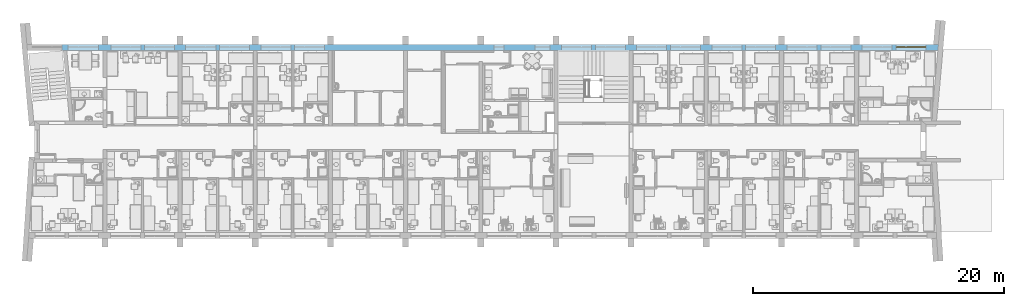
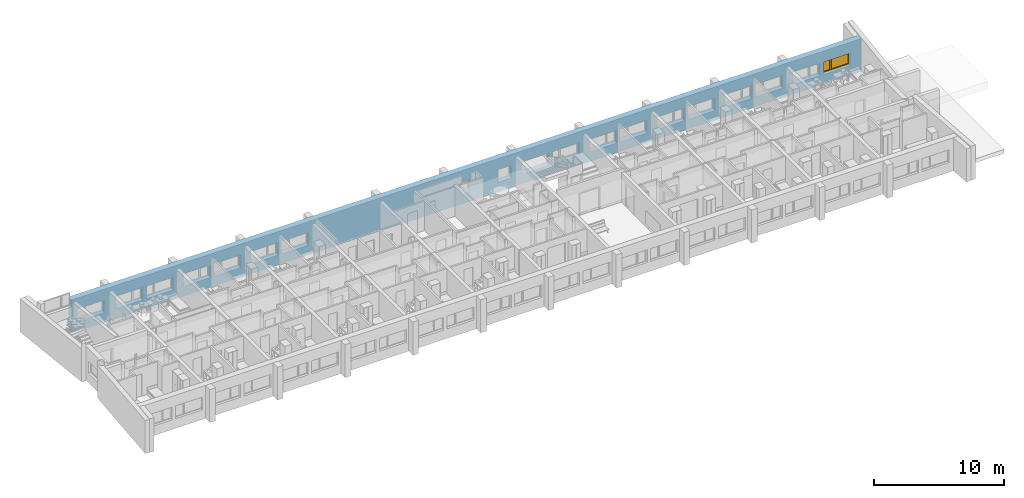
# One storey, part 31 of 172: 1 window, 19 openings, plus 1 element that does not belong to this part.
"""IFC2X3 building model written with IfcOpenShell, lengths in millimetres."""

from ifc_helpers import new_model, entity, si_unit, converted_unit, money_unit, direction, frame, origin_with_axes, place, context, subcontext, project, spatial, polyline, outline, extrude, open_shell, faceted_brep, surface_model, source, transform, mapped, material, material_list, layer, layer_set, layer_usage, type_object, element, fill, save


model = new_model("IFC2X3")

# Units and contexts
model_context = context("Model", 3, precision=1e-05, world=origin_with_axes(), true_north=direction((0.0, 1.0)))
body_context = subcontext(model_context, "Body", "Model", "MODEL_VIEW")
ifc_project = project(units=[si_unit("LENGTHUNIT", "METRE", prefix="MILLI"), si_unit("AREAUNIT", "SQUARE_METRE"), si_unit("VOLUMEUNIT", "CUBIC_METRE"), converted_unit("PLANEANGLEUNIT", "DEGREE", entity("IfcPlaneAngleMeasure", 0.0174532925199), si_unit("PLANEANGLEUNIT", "RADIAN"), dimensions=[0, 0, 0, 0, 0, 0, 0]), si_unit("SOLIDANGLEUNIT", "STERADIAN"), money_unit("USD"), converted_unit("TIMEUNIT", "Year", entity("IfcTimeMeasure", 31556926.0), si_unit("TIMEUNIT", "SECOND"), dimensions=[0, 0, 0, 0, 0, 0, 0]), si_unit("MASSUNIT", "GRAM"), si_unit("THERMODYNAMICTEMPERATUREUNIT", "DEGREE_CELSIUS"), si_unit("LUMINOUSINTENSITYUNIT", "LUMEN")], contexts=[model_context])

# Site, building, storey
site_placement = place(None, origin_with_axes())
site = spatial("IfcSite", under=ifc_project, at=site_placement, Name="Site", CompositionType="ELEMENT")
building_placement = place(site_placement, origin_with_axes())
building = spatial("IfcBuilding", under=site, at=building_placement, Name="Building", CompositionType="ELEMENT")
storey_placement = place(building_placement, frame((0.0, 0.0, 3200.0), z_axis=(0.0, 0.0, 1.0), x_axis=(1.0, 0.0, 0.0)))
storey = spatial("IfcBuildingStorey", under=building, at=storey_placement, Name="3KORRUS", CompositionType="ELEMENT", Elevation=3200.0)

# Wall, openings, window
ifc_material_1 = material(Name="Olemasolevad seinad tellis, uus viimistlus")
ifc_layer = layer(ifc_material_1, 500.0, ventilated="UNKNOWN")
ifc_layer_set = layer_set([ifc_layer], Name="Olemasolevad seinad tellis, uus viimistlus 500")
ifc_layer_usage = layer_usage(ifc_layer_set, "AXIS2", "POSITIVE", -100.0)
wall_type = type_object("IfcWallType", Name="Olemasolevad seinad tellis, uus viimistlus 500", PredefinedType="NOTDEFINED")
wall_placement = place(storey_placement, frame((-51569.3388124, -5039.6041088, 0.0), z_axis=(0.0, 0.0, 1.0), x_axis=(1.0, 0.0, 0.0)))
wall = element("IfcWallStandardCase", 1, at=wall_placement, inside=storey, type_object=wall_type, material=ifc_layer_usage, Name="VS1", ObjectType="VS1", context=body_context, shape_type="SweptSolid", body=[
    extrude(outline(polyline([(0.0, -100.0), (69914.7195482, -100.0), (69959.6995146, 400.0), (0.0, 400.0), (0.0, -100.0)])), origin_with_axes(), (0.0, 0.0, 1.0), 3100.0),
])
opening_1_placement = place(wall_placement, frame((34879.0421091, 0.0, 900.0), z_axis=(0.0, 0.0, 1.0), x_axis=(1.0, 0.0, 0.0)))
element("IfcOpeningElement", 2, at=opening_1_placement, cuts=wall, Name="WD - 001", context=body_context, shape_type="SweptSolid", body=[
    extrude(outline(polyline([(-400.0, 1200.0), (-400.0, 0.0), (400.0, 0.0), (400.0, 1200.0), (-400.0, 1200.0)])), frame((0.0, 200.0, 0.0), z_axis=(0.0, -1.0, 0.0), x_axis=(1.0, 0.0, 0.0)), (0.0, 0.0, 1.0), 800.0),
    extrude(outline(polyline([(-400.0, 0.0), (-400.0, -1200.0), (400.0, -1200.0), (400.0, 0.0), (-400.0, 0.0)])), frame((0.0, 200.0, 0.0), z_axis=(0.0, 1.0, 0.0), x_axis=(1.0, 0.0, 0.0)), (0.0, 0.0, 1.0), 700.0),
])
opening_2_placement = place(wall_placement, frame((38352.6323068, 0.0, 900.0), z_axis=(0.0, 0.0, 1.0), x_axis=(1.0, 0.0, 0.0)))
element("IfcOpeningElement", 3, at=opening_2_placement, cuts=wall, Name="A3", context=body_context, shape_type="SweptSolid", body=[
    extrude(outline(polyline([(-600.0, 1200.0), (-600.0, 0.0), (600.0, 0.0), (600.0, 1200.0), (-600.0, 1200.0)])), frame((0.0, 200.0, 0.0), z_axis=(0.0, -1.0, 0.0), x_axis=(1.0, 0.0, 0.0)), (0.0, 0.0, 1.0), 800.0),
    extrude(outline(polyline([(-600.0, 0.0), (-600.0, -1200.0), (600.0, -1200.0), (600.0, 0.0), (-600.0, 0.0)])), frame((0.0, 200.0, 0.0), z_axis=(0.0, 1.0, 0.0), x_axis=(1.0, 0.0, 0.0)), (0.0, 0.0, 1.0), 700.0),
])
opening_3_placement = place(wall_placement, frame((1700.0, 0.0, 900.0), z_axis=(0.0, 0.0, 1.0), x_axis=(1.0, 0.0, 0.0)))
element("IfcOpeningElement", 4, at=opening_3_placement, cuts=wall, Name="A1", context=body_context, shape_type="SweptSolid", body=[
    extrude(outline(polyline([(1200.0, 1200.0), (-1200.0, 1200.0), (-1200.0, 0.0), (1200.0, 0.0), (1200.0, 1200.0)])), frame((0.0, 200.0, 0.0), z_axis=(0.0, -1.0, 0.0), x_axis=(1.0, 0.0, 0.0)), (0.0, 0.0, 1.0), 800.0),
    extrude(outline(polyline([(1200.0, 0.0), (-1200.0, 0.0), (-1200.0, -1200.0), (1200.0, -1200.0), (1200.0, 0.0)])), frame((0.0, 200.0, 0.0), z_axis=(0.0, 1.0, 0.0), x_axis=(1.0, 0.0, 0.0)), (0.0, 0.0, 1.0), 700.0),
])
opening_4_placement = place(wall_placement, frame((7795.91085613, 0.0, 900.0), z_axis=(0.0, 0.0, 1.0), x_axis=(1.0, 0.0, 0.0)))
element("IfcOpeningElement", 5, at=opening_4_placement, cuts=wall, Name="A1", context=body_context, shape_type="SweptSolid", body=[
    extrude(outline(polyline([(1200.0, 1200.0), (-1200.0, 1200.0), (-1200.0, 0.0), (1200.0, 0.0), (1200.0, 1200.0)])), frame((0.0, 200.0, 0.0), z_axis=(0.0, -1.0, 0.0), x_axis=(1.0, 0.0, 0.0)), (0.0, 0.0, 1.0), 800.0),
    extrude(outline(polyline([(1200.0, 0.0), (-1200.0, 0.0), (-1200.0, -1200.0), (1200.0, -1200.0), (1200.0, 0.0)])), frame((0.0, 200.0, 0.0), z_axis=(0.0, 1.0, 0.0), x_axis=(1.0, 0.0, 0.0)), (0.0, 0.0, 1.0), 700.0),
])
opening_5_placement = place(wall_placement, frame((5095.91085613, 0.0, 900.0), z_axis=(0.0, 0.0, 1.0), x_axis=(1.0, 0.0, 0.0)))
element("IfcOpeningElement", 6, at=opening_5_placement, cuts=wall, Name="A2", context=body_context, shape_type="SweptSolid", body=[
    extrude(outline(polyline([(-1200.0, 1200.0), (-1200.0, 0.0), (1200.0, 0.0), (1200.0, 1200.0), (-1200.0, 1200.0)])), frame((0.0, 200.0, 0.0), z_axis=(0.0, -1.0, 0.0), x_axis=(1.0, 0.0, 0.0)), (0.0, 0.0, 1.0), 800.0),
    extrude(outline(polyline([(-1200.0, 0.0), (-1200.0, -1200.0), (1200.0, -1200.0), (1200.0, 0.0), (-1200.0, 0.0)])), frame((0.0, 200.0, 0.0), z_axis=(0.0, 1.0, 0.0), x_axis=(1.0, 0.0, 0.0)), (0.0, 0.0, 1.0), 700.0),
])
opening_6_placement = place(wall_placement, frame((13779.0421091, 0.0, 900.0), z_axis=(0.0, 0.0, 1.0), x_axis=(1.0, 0.0, 0.0)))
element("IfcOpeningElement", 7, at=opening_6_placement, cuts=wall, Name="A1", context=body_context, shape_type="SweptSolid", body=[
    extrude(outline(polyline([(1200.0, 1200.0), (-1200.0, 1200.0), (-1200.0, 0.0), (1200.0, 0.0), (1200.0, 1200.0)])), frame((0.0, 200.0, 0.0), z_axis=(0.0, -1.0, 0.0), x_axis=(1.0, 0.0, 0.0)), (0.0, 0.0, 1.0), 800.0),
    extrude(outline(polyline([(1200.0, 0.0), (-1200.0, 0.0), (-1200.0, -1200.0), (1200.0, -1200.0), (1200.0, 0.0)])), frame((0.0, 200.0, 0.0), z_axis=(0.0, 1.0, 0.0), x_axis=(1.0, 0.0, 0.0)), (0.0, 0.0, 1.0), 700.0),
])
opening_7_placement = place(wall_placement, frame((11079.0421091, 0.0, 900.0), z_axis=(0.0, 0.0, 1.0), x_axis=(1.0, 0.0, 0.0)))
element("IfcOpeningElement", 8, at=opening_7_placement, cuts=wall, Name="A2", context=body_context, shape_type="SweptSolid", body=[
    extrude(outline(polyline([(-1200.0, 1200.0), (-1200.0, 0.0), (1200.0, 0.0), (1200.0, 1200.0), (-1200.0, 1200.0)])), frame((0.0, 200.0, 0.0), z_axis=(0.0, -1.0, 0.0), x_axis=(1.0, 0.0, 0.0)), (0.0, 0.0, 1.0), 800.0),
    extrude(outline(polyline([(-1200.0, 0.0), (-1200.0, -1200.0), (1200.0, -1200.0), (1200.0, 0.0), (-1200.0, 0.0)])), frame((0.0, 200.0, 0.0), z_axis=(0.0, 1.0, 0.0), x_axis=(1.0, 0.0, 0.0)), (0.0, 0.0, 1.0), 700.0),
])
opening_8_placement = place(wall_placement, frame((43769.0421091, 0.0, 900.0), z_axis=(0.0, 0.0, 1.0), x_axis=(1.0, 0.0, 0.0)))
element("IfcOpeningElement", 9, at=opening_8_placement, cuts=wall, Name="A1", context=body_context, shape_type="SweptSolid", body=[
    extrude(outline(polyline([(1200.0, 1200.0), (-1200.0, 1200.0), (-1200.0, 0.0), (1200.0, 0.0), (1200.0, 1200.0)])), frame((0.0, 200.0, 0.0), z_axis=(0.0, -1.0, 0.0), x_axis=(1.0, 0.0, 0.0)), (0.0, 0.0, 1.0), 800.0),
    extrude(outline(polyline([(1200.0, 0.0), (-1200.0, 0.0), (-1200.0, -1200.0), (1200.0, -1200.0), (1200.0, 0.0)])), frame((0.0, 200.0, 0.0), z_axis=(0.0, 1.0, 0.0), x_axis=(1.0, 0.0, 0.0)), (0.0, 0.0, 1.0), 700.0),
])
opening_9_placement = place(wall_placement, frame((41069.0421091, 0.0, 900.0), z_axis=(0.0, 0.0, 1.0), x_axis=(1.0, 0.0, 0.0)))
element("IfcOpeningElement", 10, at=opening_9_placement, cuts=wall, Name="A2", context=body_context, shape_type="SweptSolid", body=[
    extrude(outline(polyline([(-1200.0, 1200.0), (-1200.0, 0.0), (1200.0, 0.0), (1200.0, 1200.0), (-1200.0, 1200.0)])), frame((0.0, 200.0, 0.0), z_axis=(0.0, -1.0, 0.0), x_axis=(1.0, 0.0, 0.0)), (0.0, 0.0, 1.0), 800.0),
    extrude(outline(polyline([(-1200.0, 0.0), (-1200.0, -1200.0), (1200.0, -1200.0), (1200.0, 0.0), (-1200.0, 0.0)])), frame((0.0, 200.0, 0.0), z_axis=(0.0, 1.0, 0.0), x_axis=(1.0, 0.0, 0.0)), (0.0, 0.0, 1.0), 700.0),
])
opening_10_placement = place(wall_placement, frame((49769.0421091, 0.0, 900.0), z_axis=(0.0, 0.0, 1.0), x_axis=(1.0, 0.0, 0.0)))
element("IfcOpeningElement", 11, at=opening_10_placement, cuts=wall, Name="A1", context=body_context, shape_type="SweptSolid", body=[
    extrude(outline(polyline([(1200.0, 1200.0), (-1200.0, 1200.0), (-1200.0, 0.0), (1200.0, 0.0), (1200.0, 1200.0)])), frame((0.0, 200.0, 0.0), z_axis=(0.0, -1.0, 0.0), x_axis=(1.0, 0.0, 0.0)), (0.0, 0.0, 1.0), 800.0),
    extrude(outline(polyline([(1200.0, 0.0), (-1200.0, 0.0), (-1200.0, -1200.0), (1200.0, -1200.0), (1200.0, 0.0)])), frame((0.0, 200.0, 0.0), z_axis=(0.0, 1.0, 0.0), x_axis=(1.0, 0.0, 0.0)), (0.0, 0.0, 1.0), 700.0),
])
opening_11_placement = place(wall_placement, frame((47069.0421091, 0.0, 900.0), z_axis=(0.0, 0.0, 1.0), x_axis=(1.0, 0.0, 0.0)))
element("IfcOpeningElement", 12, at=opening_11_placement, cuts=wall, Name="A2", context=body_context, shape_type="SweptSolid", body=[
    extrude(outline(polyline([(-1200.0, 1200.0), (-1200.0, 0.0), (1200.0, 0.0), (1200.0, 1200.0), (-1200.0, 1200.0)])), frame((0.0, 200.0, 0.0), z_axis=(0.0, -1.0, 0.0), x_axis=(1.0, 0.0, 0.0)), (0.0, 0.0, 1.0), 800.0),
    extrude(outline(polyline([(-1200.0, 0.0), (-1200.0, -1200.0), (1200.0, -1200.0), (1200.0, 0.0), (-1200.0, 0.0)])), frame((0.0, 200.0, 0.0), z_axis=(0.0, 1.0, 0.0), x_axis=(1.0, 0.0, 0.0)), (0.0, 0.0, 1.0), 700.0),
])
opening_12_placement = place(wall_placement, frame((55769.0421091, 0.0, 900.0), z_axis=(0.0, 0.0, 1.0), x_axis=(1.0, 0.0, 0.0)))
element("IfcOpeningElement", 13, at=opening_12_placement, cuts=wall, Name="A1", context=body_context, shape_type="SweptSolid", body=[
    extrude(outline(polyline([(1200.0, 1200.0), (-1200.0, 1200.0), (-1200.0, 0.0), (1200.0, 0.0), (1200.0, 1200.0)])), frame((0.0, 200.0, 0.0), z_axis=(0.0, -1.0, 0.0), x_axis=(1.0, 0.0, 0.0)), (0.0, 0.0, 1.0), 800.0),
    extrude(outline(polyline([(1200.0, 0.0), (-1200.0, 0.0), (-1200.0, -1200.0), (1200.0, -1200.0), (1200.0, 0.0)])), frame((0.0, 200.0, 0.0), z_axis=(0.0, 1.0, 0.0), x_axis=(1.0, 0.0, 0.0)), (0.0, 0.0, 1.0), 700.0),
])
opening_13_placement = place(wall_placement, frame((53069.0421091, 0.0, 900.0), z_axis=(0.0, 0.0, 1.0), x_axis=(1.0, 0.0, 0.0)))
element("IfcOpeningElement", 14, at=opening_13_placement, cuts=wall, Name="A2", context=body_context, shape_type="SweptSolid", body=[
    extrude(outline(polyline([(-1200.0, 1200.0), (-1200.0, 0.0), (1200.0, 0.0), (1200.0, 1200.0), (-1200.0, 1200.0)])), frame((0.0, 200.0, 0.0), z_axis=(0.0, -1.0, 0.0), x_axis=(1.0, 0.0, 0.0)), (0.0, 0.0, 1.0), 800.0),
    extrude(outline(polyline([(-1200.0, 0.0), (-1200.0, -1200.0), (1200.0, -1200.0), (1200.0, 0.0), (-1200.0, 0.0)])), frame((0.0, 200.0, 0.0), z_axis=(0.0, 1.0, 0.0), x_axis=(1.0, 0.0, 0.0)), (0.0, 0.0, 1.0), 700.0),
])
opening_14_placement = place(wall_placement, frame((61769.0421091, 0.0, 900.0), z_axis=(0.0, 0.0, 1.0), x_axis=(1.0, 0.0, 0.0)))
element("IfcOpeningElement", 15, at=opening_14_placement, cuts=wall, Name="A1", context=body_context, shape_type="SweptSolid", body=[
    extrude(outline(polyline([(1200.0, 1200.0), (-1200.0, 1200.0), (-1200.0, 0.0), (1200.0, 0.0), (1200.0, 1200.0)])), frame((0.0, 200.0, 0.0), z_axis=(0.0, -1.0, 0.0), x_axis=(1.0, 0.0, 0.0)), (0.0, 0.0, 1.0), 800.0),
    extrude(outline(polyline([(1200.0, 0.0), (-1200.0, 0.0), (-1200.0, -1200.0), (1200.0, -1200.0), (1200.0, 0.0)])), frame((0.0, 200.0, 0.0), z_axis=(0.0, 1.0, 0.0), x_axis=(1.0, 0.0, 0.0)), (0.0, 0.0, 1.0), 700.0),
])
opening_15_placement = place(wall_placement, frame((59069.0421091, 0.0, 900.0), z_axis=(0.0, 0.0, 1.0), x_axis=(1.0, 0.0, 0.0)))
element("IfcOpeningElement", 16, at=opening_15_placement, cuts=wall, Name="A2", context=body_context, shape_type="SweptSolid", body=[
    extrude(outline(polyline([(-1200.0, 1200.0), (-1200.0, 0.0), (1200.0, 0.0), (1200.0, 1200.0), (-1200.0, 1200.0)])), frame((0.0, 200.0, 0.0), z_axis=(0.0, -1.0, 0.0), x_axis=(1.0, 0.0, 0.0)), (0.0, 0.0, 1.0), 800.0),
    extrude(outline(polyline([(-1200.0, 0.0), (-1200.0, -1200.0), (1200.0, -1200.0), (1200.0, 0.0), (-1200.0, 0.0)])), frame((0.0, 200.0, 0.0), z_axis=(0.0, 1.0, 0.0), x_axis=(1.0, 0.0, 0.0)), (0.0, 0.0, 1.0), 700.0),
])
opening_16_placement = place(wall_placement, frame((67773.3244043, 0.0, 900.0), z_axis=(0.0, 0.0, 1.0), x_axis=(1.0, 0.0, 0.0)))
opening_16 = element("IfcOpeningElement", 17, at=opening_16_placement, cuts=wall, Name="A1", context=body_context, shape_type="SweptSolid", body=[
    extrude(outline(polyline([(1200.0, 1200.0), (-1200.0, 1200.0), (-1200.0, 0.0), (1200.0, 0.0), (1200.0, 1200.0)])), frame((0.0, 200.0, 0.0), z_axis=(0.0, -1.0, 0.0), x_axis=(1.0, 0.0, 0.0)), (0.0, 0.0, 1.0), 800.0),
    extrude(outline(polyline([(1200.0, 0.0), (-1200.0, 0.0), (-1200.0, -1200.0), (1200.0, -1200.0), (1200.0, 0.0)])), frame((0.0, 200.0, 0.0), z_axis=(0.0, 1.0, 0.0), x_axis=(1.0, 0.0, 0.0)), (0.0, 0.0, 1.0), 700.0),
])
opening_17_placement = place(wall_placement, frame((65073.3244043, 0.0, 900.0), z_axis=(0.0, 0.0, 1.0), x_axis=(1.0, 0.0, 0.0)))
element("IfcOpeningElement", 18, at=opening_17_placement, cuts=wall, Name="A2", context=body_context, shape_type="SweptSolid", body=[
    extrude(outline(polyline([(-1200.0, 1200.0), (-1200.0, 0.0), (1200.0, 0.0), (1200.0, 1200.0), (-1200.0, 1200.0)])), frame((0.0, 200.0, 0.0), z_axis=(0.0, -1.0, 0.0), x_axis=(1.0, 0.0, 0.0)), (0.0, 0.0, 1.0), 800.0),
    extrude(outline(polyline([(-1200.0, 0.0), (-1200.0, -1200.0), (1200.0, -1200.0), (1200.0, 0.0), (-1200.0, 0.0)])), frame((0.0, 200.0, 0.0), z_axis=(0.0, 1.0, 0.0), x_axis=(1.0, 0.0, 0.0)), (0.0, 0.0, 1.0), 700.0),
])
opening_18_placement = place(wall_placement, frame((19767.4765851, 0.0, 900.0), z_axis=(0.0, 0.0, 1.0), x_axis=(1.0, 0.0, 0.0)))
element("IfcOpeningElement", 19, at=opening_18_placement, cuts=wall, Name="A1", context=body_context, shape_type="SweptSolid", body=[
    extrude(outline(polyline([(1200.0, 1200.0), (-1200.0, 1200.0), (-1200.0, 0.0), (1200.0, 0.0), (1200.0, 1200.0)])), frame((0.0, 200.0, 0.0), z_axis=(0.0, -1.0, 0.0), x_axis=(1.0, 0.0, 0.0)), (0.0, 0.0, 1.0), 800.0),
    extrude(outline(polyline([(1200.0, 0.0), (-1200.0, 0.0), (-1200.0, -1200.0), (1200.0, -1200.0), (1200.0, 0.0)])), frame((0.0, 200.0, 0.0), z_axis=(0.0, 1.0, 0.0), x_axis=(1.0, 0.0, 0.0)), (0.0, 0.0, 1.0), 700.0),
])
opening_19_placement = place(wall_placement, frame((17067.4765851, 0.0, 900.0), z_axis=(0.0, 0.0, 1.0), x_axis=(1.0, 0.0, 0.0)))
element("IfcOpeningElement", 20, at=opening_19_placement, cuts=wall, Name="A2", context=body_context, shape_type="SweptSolid", body=[
    extrude(outline(polyline([(-1200.0, 1200.0), (-1200.0, 0.0), (1200.0, 0.0), (1200.0, 1200.0), (-1200.0, 1200.0)])), frame((0.0, 200.0, 0.0), z_axis=(0.0, -1.0, 0.0), x_axis=(1.0, 0.0, 0.0)), (0.0, 0.0, 1.0), 800.0),
    extrude(outline(polyline([(-1200.0, 0.0), (-1200.0, -1200.0), (1200.0, -1200.0), (1200.0, 0.0), (-1200.0, 0.0)])), frame((0.0, 200.0, 0.0), z_axis=(0.0, 1.0, 0.0), x_axis=(1.0, 0.0, 0.0)), (0.0, 0.0, 1.0), 700.0),
])
ifc_material_2 = material(Name="Background")
ifc_material_list = material_list([ifc_material_2])
window_style = type_object("IfcWindowStyle", Name="Double Window 19", ConstructionType="NOTDEFINED", OperationType="DOUBLE_PANEL_VERTICAL", ParameterTakesPrecedence=False, Sizeable=False)
shared_shape = source(origin_with_axes(), body_context, "Body", "SurfaceModel", [
    faceted_brep([(1175.0, -200.0, 1150.0), (1175.0, -225.0, 1150.0), (1150.0, -225.0, 1150.0), (1150.0, -250.0, 1150.0), (1200.0, -250.0, 1150.0), (1200.0, -200.0, 1150.0), (1175.0, -200.0, 50.0), (1175.0, -225.0, 50.0), (1150.0, -225.0, 50.0), (1150.0, -250.0, 50.0), (1200.0, -250.0, 50.0), (1200.0, -200.0, 50.0)], [[[0, 1, 2, 3, 4, 5]], [[1, 0, 6, 7]], [[8, 2, 1, 7]], [[2, 8, 9, 3]], [[4, 3, 9, 10]], [[5, 4, 10, 11]], [[6, 0, 5, 11]], [[7, 6, 11, 10, 9, 8]]]),
    faceted_brep([(-1150.0, -225.0, 1150.0), (-1175.0, -225.0, 1150.0), (-1175.0, -200.0, 1150.0), (-1200.0, -200.0, 1150.0), (-1200.0, -250.0, 1150.0), (-1150.0, -250.0, 1150.0), (-1150.0, -225.0, 50.0), (-1175.0, -225.0, 50.0), (-1175.0, -200.0, 50.0), (-1200.0, -200.0, 50.0), (-1200.0, -250.0, 50.0), (-1150.0, -250.0, 50.0)], [[[0, 1, 2, 3, 4, 5]], [[1, 0, 6, 7]], [[8, 2, 1, 7]], [[2, 8, 9, 3]], [[9, 10, 4, 3]], [[10, 11, 5, 4]], [[6, 0, 5, 11]], [[7, 6, 11, 10, 9, 8]]]),
    faceted_brep([(-350.0, -225.0, 1150.0), (-375.0, -225.0, 1150.0), (-375.0, -200.0, 1150.0), (-425.0, -200.0, 1150.0), (-425.0, -225.0, 1150.0), (-450.0, -225.0, 1150.0), (-450.0, -250.0, 1150.0), (-350.0, -250.0, 1150.0), (-350.0, -225.0, 50.0), (-375.0, -225.0, 50.0), (-375.0, -200.0, 50.0), (-425.0, -200.0, 50.0), (-425.0, -225.0, 50.0), (-450.0, -225.0, 50.0), (-450.0, -250.0, 50.0), (-350.0, -250.0, 50.0)], [[[0, 1, 2, 3, 4, 5, 6, 7]], [[1, 0, 8, 9]], [[10, 2, 1, 9]], [[2, 10, 11, 3]], [[4, 3, 11, 12]], [[13, 5, 4, 12]], [[5, 13, 14, 6]], [[14, 15, 7, 6]], [[8, 0, 7, 15]], [[9, 8, 15, 14, 13, 12, 11, 10]]]),
    faceted_brep([(-350.0, -225.0, 50.0), (-375.0, -225.0, 50.0), (-375.0, -200.0, 50.0), (-425.0, -200.0, 50.0), (-425.0, -225.0, 50.0), (-450.0, -225.0, 50.0), (-450.0, -250.0, 50.0), (-350.0, -250.0, 50.0), (1150.0, -225.0, 50.0), (1175.0, -225.0, 50.0), (1175.0, -225.0, 25.0), (-375.0, -225.0, 25.0), (-375.0, -200.0, 25.0), (1175.0, -200.0, 25.0), (1175.0, -200.0, 50.0), (1200.0, -200.0, 50.0), (1200.0, -200.0, 0.0), (-1200.0, -200.0, 0.0), (-1200.0, -200.0, 50.0), (-1175.0, -200.0, 50.0), (-1175.0, -200.0, 25.0), (-425.0, -200.0, 25.0), (-425.0, -225.0, 25.0), (-1175.0, -225.0, 50.0), (-1150.0, -225.0, 50.0), (-1175.0, -225.0, 25.0), (-1150.0, -250.0, 50.0), (1200.0, -250.0, 50.0), (1150.0, -250.0, 50.0), (-1200.0, -250.0, 50.0), (-1200.0, -250.0, 0.0), (1200.0, -250.0, 0.0)], [[[0, 1, 2, 3, 4, 5, 6, 7]], [[1, 0, 8, 9, 10, 11]], [[12, 2, 1, 11]], [[13, 14, 15, 16, 17, 18, 19, 20, 21, 3, 2, 12]], [[4, 3, 21, 22]], [[23, 24, 5, 4, 22, 25]], [[5, 24, 26, 6]], [[27, 28, 7, 6, 26, 29, 30, 31]], [[8, 0, 7, 28]], [[9, 8, 28, 27, 15, 14]], [[9, 14, 13, 10]], [[13, 12, 11, 10]], [[15, 27, 31, 16]], [[16, 31, 30, 17]], [[17, 30, 29, 18]], [[24, 23, 19, 18, 29, 26]], [[20, 19, 23, 25]], [[21, 20, 25, 22]]]),
    faceted_brep([(1175.0, -200.0, 1150.0), (1175.0, -200.0, 1175.0), (-375.0, -200.0, 1175.0), (-375.0, -200.0, 1150.0), (-425.0, -200.0, 1150.0), (-425.0, -200.0, 1175.0), (-1175.0, -200.0, 1175.0), (-1175.0, -200.0, 1150.0), (-1200.0, -200.0, 1150.0), (-1200.0, -200.0, 1200.0), (1200.0, -200.0, 1200.0), (1200.0, -200.0, 1150.0), (1175.0, -225.0, 1150.0), (1175.0, -225.0, 1175.0), (-375.0, -225.0, 1175.0), (-375.0, -225.0, 1150.0), (-350.0, -225.0, 1150.0), (-350.0, -250.0, 1150.0), (-450.0, -250.0, 1150.0), (-450.0, -225.0, 1150.0), (-425.0, -225.0, 1150.0), (-425.0, -225.0, 1175.0), (-1175.0, -225.0, 1175.0), (-1175.0, -225.0, 1150.0), (-1150.0, -225.0, 1150.0), (-1150.0, -250.0, 1150.0), (-1200.0, -250.0, 1150.0), (-1200.0, -250.0, 1200.0), (1200.0, -250.0, 1200.0), (1200.0, -250.0, 1150.0), (1150.0, -250.0, 1150.0), (1150.0, -225.0, 1150.0)], [[[0, 1, 2, 3, 4, 5, 6, 7, 8, 9, 10, 11]], [[1, 0, 12, 13]], [[2, 1, 13, 14]], [[3, 2, 14, 15]], [[15, 16, 17, 18, 19, 20, 4, 3]], [[5, 4, 20, 21]], [[6, 5, 21, 22]], [[7, 6, 22, 23]], [[23, 24, 25, 26, 8, 7]], [[8, 26, 27, 9]], [[9, 27, 28, 10]], [[10, 28, 29, 11]], [[12, 0, 11, 29, 30, 31]], [[16, 15, 14, 13, 12, 31]], [[16, 31, 30, 17]], [[18, 17, 30, 29, 28, 27, 26, 25]], [[24, 19, 18, 25]], [[24, 23, 22, 21, 20, 19]]]),
    faceted_brep([(1125.0, -225.0, 1125.0), (1175.0, -225.0, 1125.0), (1175.0, -175.0, 1125.0), (1125.0, -175.0, 1125.0), (1125.0, -225.0, 75.0), (1175.0, -225.0, 75.0), (1175.0, -175.0, 75.0), (1125.0, -175.0, 75.0)], [[[0, 1, 2, 3]], [[0, 4, 5, 1]], [[1, 5, 6, 2]], [[3, 2, 6, 7]], [[4, 0, 3, 7]], [[5, 4, 7, 6]]]),
    faceted_brep([(-325.0, -225.0, 75.0), (-375.0, -225.0, 75.0), (-375.0, -175.0, 75.0), (-325.0, -175.0, 75.0), (-325.0, -225.0, 1125.0), (-375.0, -225.0, 1125.0), (-375.0, -175.0, 1125.0), (-325.0, -175.0, 1125.0)], [[[0, 1, 2, 3]], [[0, 4, 5, 1]], [[1, 5, 6, 2]], [[3, 2, 6, 7]], [[4, 0, 3, 7]], [[5, 4, 7, 6]]]),
    faceted_brep([(-375.0, -225.0, 25.0), (-375.0, -225.0, 75.0), (-375.0, -175.0, 75.0), (-375.0, -175.0, 25.0), (1175.0, -225.0, 25.0), (1175.0, -225.0, 75.0), (1125.0, -225.0, 75.0), (-325.0, -225.0, 75.0), (-325.0, -175.0, 75.0), (1125.0, -175.0, 75.0), (1175.0, -175.0, 75.0), (1175.0, -175.0, 25.0)], [[[0, 1, 2, 3]], [[0, 4, 5, 6, 7, 1]], [[1, 7, 8, 2]], [[3, 2, 8, 9, 10, 11]], [[4, 0, 3, 11]], [[5, 4, 11, 10]], [[6, 5, 10, 9]], [[7, 6, 9, 8]]]),
    faceted_brep([(1175.0, -225.0, 1175.0), (1175.0, -225.0, 1125.0), (1175.0, -175.0, 1125.0), (1175.0, -175.0, 1175.0), (-375.0, -225.0, 1175.0), (-375.0, -225.0, 1125.0), (-325.0, -225.0, 1125.0), (1125.0, -225.0, 1125.0), (1125.0, -175.0, 1125.0), (-325.0, -175.0, 1125.0), (-375.0, -175.0, 1125.0), (-375.0, -175.0, 1175.0)], [[[0, 1, 2, 3]], [[0, 4, 5, 6, 7, 1]], [[1, 7, 8, 2]], [[3, 2, 8, 9, 10, 11]], [[4, 0, 3, 11]], [[5, 4, 11, 10]], [[6, 5, 10, 9]], [[7, 6, 9, 8]]]),
    surface_model("IfcShellBasedSurfaceModel", [(1125.0, -210.0, 75.0), (1125.0, -210.0, 1125.0), (-325.0, -210.0, 1125.0), (-325.0, -210.0, 75.0)], [open_shell([[[0, 1, 2, 3]]])]),
    surface_model("IfcShellBasedSurfaceModel", [(1125.0, -190.0, 75.0), (-325.0, -190.0, 75.0), (-325.0, -190.0, 1125.0), (1125.0, -190.0, 1125.0)], [open_shell([[[0, 1, 2, 3]]])]),
    faceted_brep([(-475.0, -225.0, 1125.0), (-425.0, -225.0, 1125.0), (-425.0, -175.0, 1125.0), (-475.0, -175.0, 1125.0), (-475.0, -225.0, 75.0), (-425.0, -225.0, 75.0), (-425.0, -175.0, 75.0), (-475.0, -175.0, 75.0)], [[[0, 1, 2, 3]], [[0, 4, 5, 1]], [[1, 5, 6, 2]], [[3, 2, 6, 7]], [[4, 0, 3, 7]], [[5, 4, 7, 6]]]),
    faceted_brep([(-1125.0, -225.0, 75.0), (-1175.0, -225.0, 75.0), (-1175.0, -175.0, 75.0), (-1125.0, -175.0, 75.0), (-1125.0, -225.0, 1125.0), (-1175.0, -225.0, 1125.0), (-1175.0, -175.0, 1125.0), (-1125.0, -175.0, 1125.0)], [[[0, 1, 2, 3]], [[0, 4, 5, 1]], [[1, 5, 6, 2]], [[3, 2, 6, 7]], [[4, 0, 3, 7]], [[5, 4, 7, 6]]]),
    faceted_brep([(-1175.0, -225.0, 25.0), (-1175.0, -225.0, 75.0), (-1175.0, -175.0, 75.0), (-1175.0, -175.0, 25.0), (-425.0, -225.0, 25.0), (-425.0, -225.0, 75.0), (-475.0, -225.0, 75.0), (-1125.0, -225.0, 75.0), (-1125.0, -175.0, 75.0), (-475.0, -175.0, 75.0), (-425.0, -175.0, 75.0), (-425.0, -175.0, 25.0)], [[[0, 1, 2, 3]], [[0, 4, 5, 6, 7, 1]], [[1, 7, 8, 2]], [[3, 2, 8, 9, 10, 11]], [[4, 0, 3, 11]], [[5, 4, 11, 10]], [[6, 5, 10, 9]], [[7, 6, 9, 8]]]),
    faceted_brep([(-425.0, -225.0, 1175.0), (-425.0, -225.0, 1125.0), (-425.0, -175.0, 1125.0), (-425.0, -175.0, 1175.0), (-1175.0, -225.0, 1175.0), (-1175.0, -225.0, 1125.0), (-1125.0, -225.0, 1125.0), (-475.0, -225.0, 1125.0), (-475.0, -175.0, 1125.0), (-1125.0, -175.0, 1125.0), (-1175.0, -175.0, 1125.0), (-1175.0, -175.0, 1175.0)], [[[0, 1, 2, 3]], [[0, 4, 5, 6, 7, 1]], [[1, 7, 8, 2]], [[3, 2, 8, 9, 10, 11]], [[4, 0, 3, 11]], [[5, 4, 11, 10]], [[6, 5, 10, 9]], [[7, 6, 9, 8]]]),
    surface_model("IfcShellBasedSurfaceModel", [(-475.0, -210.0, 75.0), (-475.0, -210.0, 1125.0), (-1125.0, -210.0, 1125.0), (-1125.0, -210.0, 75.0)], [open_shell([[[0, 1, 2, 3]]])]),
    surface_model("IfcShellBasedSurfaceModel", [(-475.0, -190.0, 75.0), (-1125.0, -190.0, 75.0), (-1125.0, -190.0, 1125.0), (-475.0, -190.0, 1125.0)], [open_shell([[[0, 1, 2, 3]]])]),
])
window_placement = place(opening_16_placement, frame((-1200.0, 0.0, 0.0), z_axis=(0.0, 0.0, 1.0), x_axis=(1.0, 0.0, 0.0)))
window = element("IfcWindow", 21, at=window_placement, inside=storey, type_object=window_style, material=ifc_material_list, Name="A1", ObjectType="A1", OverallHeight=1200.0, OverallWidth=2400.0, context=body_context, shape_type="MappedRepresentation", body=[
    mapped(shared_shape, transform((1200.0, 400.0, 0.0))),
])
fill(opening_16, window)

save(model, "model.ifc")
